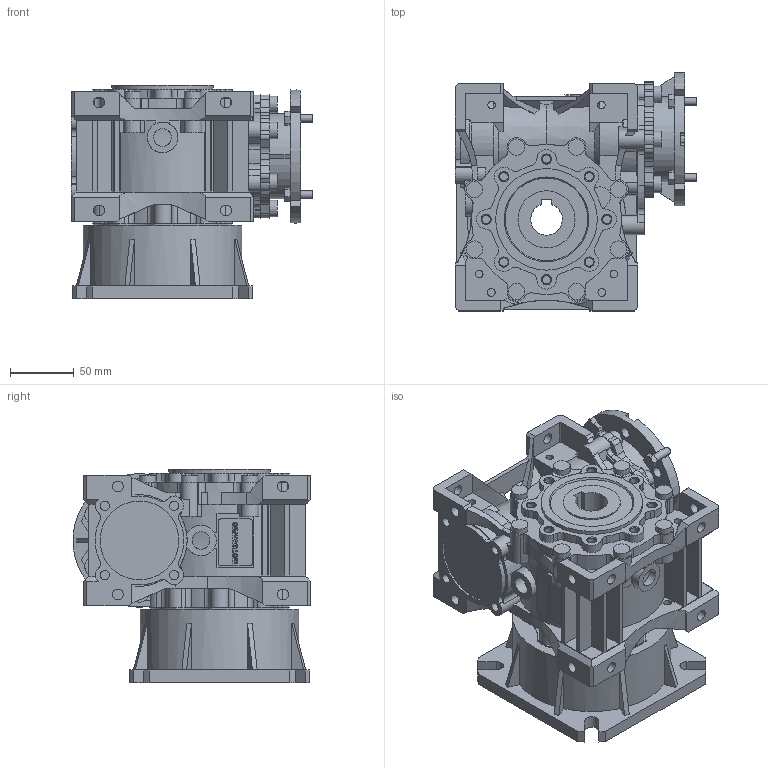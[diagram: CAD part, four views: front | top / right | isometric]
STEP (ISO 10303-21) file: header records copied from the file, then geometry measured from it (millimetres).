
FILE_DESCRIPTION(/* description */ ('STEP AP203'),/* implementation_level */ '2;1');
FILE_NAME(/* name */ 'NMRVP_063_105x14_25_NO_FB_180_S_NO_-_-_-_NO_NO_-_---_---------------',/* time_stamp */ '2025-11-24T03:40:02+01:00',/* author */ ('License CC BY-ND 4.0'),/* organization */ ('CADENAS'),/* preprocessor_version */ 'ST-DEVELOPER v20',/* originating_system */ 'PARTsolutions',/* authorisation */ ' ');
FILE_SCHEMA (('CONFIG_CONTROL_DESIGN'));
Length unit declared in the file: millimetre
Products named in the file (7): NMRVP 063 105x14 25 NO FB 180 S NO - - - NO NO - ---(---------------); W.063.01.M; 063-25 (112); W.063.14.14.M-p; 6371 B14; 63-45; FU 63FB-p
Assembly tree (6 placements, depth 2):
  NMRVP 063 105x14 25 NO FB 180 S NO - - - NO NO - ---(---------------)
    W.063.01.M
    063-25 (112)
    W.063.14.14.M-p
    6371 B14
    63-45
    FU 63FB-p
Bounding box: 190.44 x 187.33 x 168 mm (x, y, z)
Volume: 2086753 mm3; surface area: 393466.8 mm2
Topology: 6 solids, 10 shells, 1724 faces, 4694 edges, 3107 vertices
Faces by surface type: plane 967, cylinder 688, cone 67, torus 2
Full cylindrical faces by diameter (mm): 6 x16, 6.647 x16, 7.26 x12, 7.8 x1, 8.5 x20, 13 x22, 14 x3, 24 x1, 27 x1, 35 x1, 37 x1, 44 x1, 45 x3, 62 x3, 68 x2, 70 x1, 80 x3, 114 x1, 115 x1, 125 x1
Entity records: 54463 total; most frequent: CARTESIAN_POINT 10158, DIRECTION 9376, ORIENTED_EDGE 9052, EDGE_CURVE 4526, AXIS2_PLACEMENT_3D 3346, VERTEX_POINT 3076, LINE 2684, VECTOR 2684
